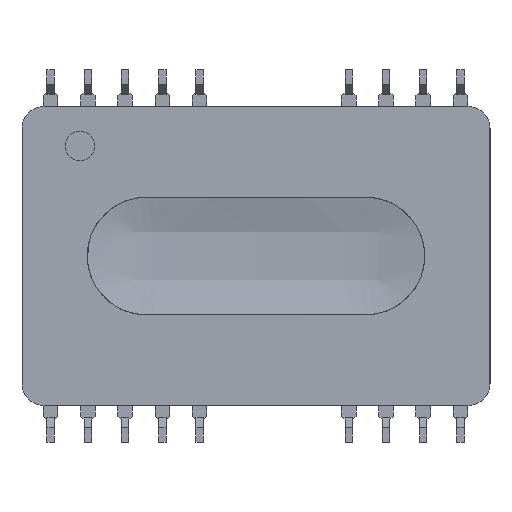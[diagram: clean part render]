
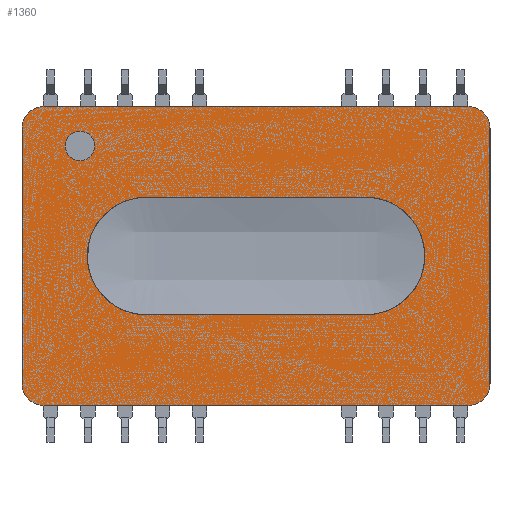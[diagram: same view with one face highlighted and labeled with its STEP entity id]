
A CAD part, front view. The second image highlights one B-rep face of the part: STEP entity #1360.
In plain terms, the highlighted planar face has unit normal (0, -1, 0).
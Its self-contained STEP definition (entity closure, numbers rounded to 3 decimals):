
#959 = VERTEX_POINT ( 'NONE', #4851 ) ;
#961 = EDGE_CURVE ( 'NONE', #959, #962, #4850, .T. ) ;
#962 = VERTEX_POINT ( 'NONE', #4845 ) ;
#1261 = VERTEX_POINT ( 'NONE', #5337 ) ;
#1262 = VERTEX_POINT ( 'NONE', #5336 ) ;
#1271 = EDGE_CURVE ( 'NONE', #1262, #1272, #5326, .T. ) ;
#1272 = VERTEX_POINT ( 'NONE', #5379 ) ;
#1288 = EDGE_CURVE ( 'NONE', #1261, #1262, #5360, .T. ) ;
#1302 = EDGE_CURVE ( 'NONE', #1376, #1261, #5393, .T. ) ;
#1309 = EDGE_CURVE ( 'NONE', #1327, #1310, #5388, .T. ) ;
#1310 = VERTEX_POINT ( 'NONE', #5443 ) ;
#1317 = EDGE_CURVE ( 'NONE', #1335, #1318, #5432, .T. ) ;
#1318 = VERTEX_POINT ( 'NONE', #5428 ) ;
#1326 = EDGE_CURVE ( 'NONE', #1318, #1327, #5421, .T. ) ;
#1327 = VERTEX_POINT ( 'NONE', #5416 ) ;
#1334 = EDGE_CURVE ( 'NONE', #1272, #1335, #5464, .T. ) ;
#1335 = VERTEX_POINT ( 'NONE', #5459 ) ;
#1347 = EDGE_CURVE ( 'NONE', #1365, #1371, #5504, .T. ) ;
#1348 = ORIENTED_EDGE ( 'NONE', *, *, #1349, .F. ) ;
#1349 = EDGE_CURVE ( 'NONE', #962, #959, #5500, .T. ) ;
#1350 = ORIENTED_EDGE ( 'NONE', *, *, #961, .F. ) ;
#1351 = EDGE_LOOP ( 'NONE', ( #1352, #1353, #1354, #1355, #1356, #1357, #1389, #1390 ) ) ;
#1352 = ORIENTED_EDGE ( 'NONE', *, *, #1288, .F. ) ;
#1353 = ORIENTED_EDGE ( 'NONE', *, *, #1302, .F. ) ;
#1354 = ORIENTED_EDGE ( 'NONE', *, *, #1375, .F. ) ;
#1355 = ORIENTED_EDGE ( 'NONE', *, *, #1309, .F. ) ;
#1356 = ORIENTED_EDGE ( 'NONE', *, *, #1326, .F. ) ;
#1357 = ORIENTED_EDGE ( 'NONE', *, *, #1317, .F. ) ;
#1360 = ADVANCED_FACE ( 'NONE', ( #5495, #5494, #5493 ), #5492, .T. ) ;
#1361 = EDGE_LOOP ( 'NONE', ( #1362, #1366, #1369, #1372 ) ) ;
#1362 = ORIENTED_EDGE ( 'NONE', *, *, #1363, .F. ) ;
#1363 = EDGE_CURVE ( 'NONE', #1364, #1365, #5486, .T. ) ;
#1364 = VERTEX_POINT ( 'NONE', #5482 ) ;
#1365 = VERTEX_POINT ( 'NONE', #5481 ) ;
#1366 = ORIENTED_EDGE ( 'NONE', *, *, #1367, .F. ) ;
#1367 = EDGE_CURVE ( 'NONE', #1368, #1364, #5480, .T. ) ;
#1368 = VERTEX_POINT ( 'NONE', #5476 ) ;
#1369 = ORIENTED_EDGE ( 'NONE', *, *, #1370, .F. ) ;
#1370 = EDGE_CURVE ( 'NONE', #1371, #1368, #5475, .T. ) ;
#1371 = VERTEX_POINT ( 'NONE', #5533 ) ;
#1372 = ORIENTED_EDGE ( 'NONE', *, *, #1347, .F. ) ;
#1373 = EDGE_LOOP ( 'NONE', ( #1348, #1350 ) ) ;
#1375 = EDGE_CURVE ( 'NONE', #1310, #1376, #5532, .T. ) ;
#1376 = VERTEX_POINT ( 'NONE', #5527 ) ;
#1389 = ORIENTED_EDGE ( 'NONE', *, *, #1334, .F. ) ;
#1390 = ORIENTED_EDGE ( 'NONE', *, *, #1271, .F. ) ;
#4845 = CARTESIAN_POINT ( 'NONE',  ( -12., 0., 6.5 ) ) ;
#4846 = DIRECTION ( 'NONE',  ( 0., 0., -1. ) ) ;
#4847 = DIRECTION ( 'NONE',  ( 0., -1., 0. ) ) ;
#4848 = CARTESIAN_POINT ( 'NONE',  ( -12., 0., 7.5 ) ) ;
#4849 = AXIS2_PLACEMENT_3D ( 'NONE', #4848, #4847, #4846 ) ;
#4850 = CIRCLE ( 'NONE', #4849, 1. ) ;
#4851 = CARTESIAN_POINT ( 'NONE',  ( -12., 0., 8.5 ) ) ;
#5318 = DIRECTION ( 'NONE',  ( 0., 0., 1. ) ) ;
#5319 = VECTOR ( 'NONE', #5318, 1000. ) ;
#5320 = CARTESIAN_POINT ( 'NONE',  ( -15.95, 0., -8.7 ) ) ;
#5326 = LINE ( 'NONE', #5320, #5319 ) ;
#5336 = CARTESIAN_POINT ( 'NONE',  ( -15.95, 0., -8.7 ) ) ;
#5337 = CARTESIAN_POINT ( 'NONE',  ( -14.45, 0., -10.2 ) ) ;
#5351 = DIRECTION ( 'NONE',  ( 0., 0., -1. ) ) ;
#5352 = DIRECTION ( 'NONE',  ( 0., 1., 0. ) ) ;
#5353 = CARTESIAN_POINT ( 'NONE',  ( -14.45, 0., -8.7 ) ) ;
#5354 = AXIS2_PLACEMENT_3D ( 'NONE', #5353, #5352, #5351 ) ;
#5360 = CIRCLE ( 'NONE', #5354, 1.5 ) ;
#5379 = CARTESIAN_POINT ( 'NONE',  ( -15.95, 0., 8.7 ) ) ;
#5380 = DIRECTION ( 'NONE',  ( 0., 0., -1. ) ) ;
#5381 = VECTOR ( 'NONE', #5380, 1000. ) ;
#5382 = CARTESIAN_POINT ( 'NONE',  ( 15.95, 0., 8.7 ) ) ;
#5388 = LINE ( 'NONE', #5382, #5381 ) ;
#5390 = DIRECTION ( 'NONE',  ( -1., 0., 0. ) ) ;
#5391 = VECTOR ( 'NONE', #5390, 1000. ) ;
#5392 = CARTESIAN_POINT ( 'NONE',  ( 14.45, 0., -10.2 ) ) ;
#5393 = LINE ( 'NONE', #5392, #5391 ) ;
#5412 = DIRECTION ( 'NONE',  ( 0., 0., -1. ) ) ;
#5413 = DIRECTION ( 'NONE',  ( 0., 1., 0. ) ) ;
#5414 = CARTESIAN_POINT ( 'NONE',  ( 14.45, 0., 8.7 ) ) ;
#5415 = AXIS2_PLACEMENT_3D ( 'NONE', #5414, #5413, #5412 ) ;
#5416 = CARTESIAN_POINT ( 'NONE',  ( 15.95, 0., 8.7 ) ) ;
#5421 = CIRCLE ( 'NONE', #5415, 1.5 ) ;
#5428 = CARTESIAN_POINT ( 'NONE',  ( 14.45, 0., 10.2 ) ) ;
#5429 = DIRECTION ( 'NONE',  ( 1., 0., 0. ) ) ;
#5430 = VECTOR ( 'NONE', #5429, 1000. ) ;
#5431 = CARTESIAN_POINT ( 'NONE',  ( -14.45, 0., 10.2 ) ) ;
#5432 = LINE ( 'NONE', #5431, #5430 ) ;
#5443 = CARTESIAN_POINT ( 'NONE',  ( 15.95, 0., -8.7 ) ) ;
#5459 = CARTESIAN_POINT ( 'NONE',  ( -14.45, 0., 10.2 ) ) ;
#5460 = DIRECTION ( 'NONE',  ( 0., 0., -1. ) ) ;
#5461 = DIRECTION ( 'NONE',  ( 0., 1., 0. ) ) ;
#5462 = CARTESIAN_POINT ( 'NONE',  ( -14.45, 0., 8.7 ) ) ;
#5463 = AXIS2_PLACEMENT_3D ( 'NONE', #5462, #5461, #5460 ) ;
#5464 = CIRCLE ( 'NONE', #5463, 1.5 ) ;
#5475 = CIRCLE ( 'NONE', #5537, 4. ) ;
#5476 = CARTESIAN_POINT ( 'NONE',  ( 7.5, 0., 4. ) ) ;
#5477 = DIRECTION ( 'NONE',  ( -1., 0., 0. ) ) ;
#5478 = VECTOR ( 'NONE', #5477, 1000. ) ;
#5479 = CARTESIAN_POINT ( 'NONE',  ( -14.45, 0., 4. ) ) ;
#5480 = LINE ( 'NONE', #5479, #5478 ) ;
#5481 = CARTESIAN_POINT ( 'NONE',  ( -7.5, 0., -4. ) ) ;
#5482 = CARTESIAN_POINT ( 'NONE',  ( -7.5, 0., 4. ) ) ;
#5483 = DIRECTION ( 'NONE',  ( 0., 0., -1. ) ) ;
#5484 = DIRECTION ( 'NONE',  ( 0., -1., 0. ) ) ;
#5485 = AXIS2_PLACEMENT_3D ( 'NONE', #5490, #5484, #5483 ) ;
#5486 = CIRCLE ( 'NONE', #5485, 4. ) ;
#5487 = DIRECTION ( 'NONE',  ( 0., 0., -1. ) ) ;
#5488 = DIRECTION ( 'NONE',  ( 0., -1., 0. ) ) ;
#5489 = AXIS2_PLACEMENT_3D ( 'NONE', #5491, #5488, #5487 ) ;
#5490 = CARTESIAN_POINT ( 'NONE',  ( -7.5, 0., 0. ) ) ;
#5491 = CARTESIAN_POINT ( 'NONE',  ( -14.45, 0., -8.7 ) ) ;
#5492 = PLANE ( 'NONE',  #5489 ) ;
#5493 = FACE_OUTER_BOUND ( 'NONE', #1351, .T. ) ;
#5494 = FACE_BOUND ( 'NONE', #1373, .T. ) ;
#5495 = FACE_BOUND ( 'NONE', #1361, .T. ) ;
#5496 = DIRECTION ( 'NONE',  ( 0., 0., -1. ) ) ;
#5497 = DIRECTION ( 'NONE',  ( 0., -1., 0. ) ) ;
#5498 = CARTESIAN_POINT ( 'NONE',  ( -12., 0., 7.5 ) ) ;
#5499 = AXIS2_PLACEMENT_3D ( 'NONE', #5498, #5497, #5496 ) ;
#5500 = CIRCLE ( 'NONE', #5499, 1. ) ;
#5501 = DIRECTION ( 'NONE',  ( 1., 0., 0. ) ) ;
#5502 = VECTOR ( 'NONE', #5501, 1000. ) ;
#5503 = CARTESIAN_POINT ( 'NONE',  ( -14.45, 0., -4. ) ) ;
#5504 = LINE ( 'NONE', #5503, #5502 ) ;
#5527 = CARTESIAN_POINT ( 'NONE',  ( 14.45, 0., -10.2 ) ) ;
#5528 = DIRECTION ( 'NONE',  ( 0., 0., -1. ) ) ;
#5529 = DIRECTION ( 'NONE',  ( 0., 1., 0. ) ) ;
#5530 = CARTESIAN_POINT ( 'NONE',  ( 14.45, 0., -8.7 ) ) ;
#5531 = AXIS2_PLACEMENT_3D ( 'NONE', #5530, #5529, #5528 ) ;
#5532 = CIRCLE ( 'NONE', #5531, 1.5 ) ;
#5533 = CARTESIAN_POINT ( 'NONE',  ( 7.5, 0., -4. ) ) ;
#5534 = DIRECTION ( 'NONE',  ( 0., 0., -1. ) ) ;
#5535 = DIRECTION ( 'NONE',  ( 0., -1., 0. ) ) ;
#5536 = CARTESIAN_POINT ( 'NONE',  ( 7.5, 0., 0. ) ) ;
#5537 = AXIS2_PLACEMENT_3D ( 'NONE', #5536, #5535, #5534 ) ;
